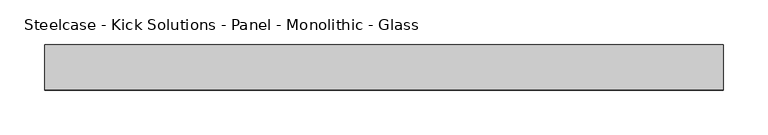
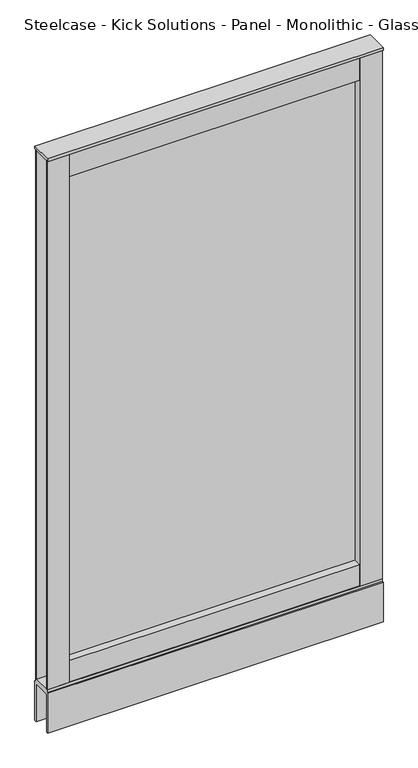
"""IFC4 building model written with IfcOpenShell, lengths in millimetres: furniture geometry, Steelcase - Kick Solutions - Panel - Monolithic - Glass : 54H x 30W."""

from ifc_helpers import new_model, si_unit, frame, origin, place, context, project, spatial, polyline, outline, extrude, source, transform, mapped, element, save


def steelcase_kick_solutions_panel_monolithic_glass_fa8cbcec(model_context):
    return source(origin(), model_context, "Body", "SweptSolid", [
        extrude(outline(polyline([(711.2006661, -5.08), (711.2006661, -45.7200015), (50.8006646, -45.7200015), (50.8006646, -5.08), (711.2006661, -5.08)])), frame((0.0, 0.0, 101.7169049), z_axis=(0.0, 0.0, 1.0), x_axis=(1.0, 0.0, 0.0)), (0.0, 0.0, 1.0), 50.6830951),
        extrude(outline(polyline([(711.2006661, -5.08), (711.2006661, -45.7200015), (50.8006646, -45.7200015), (50.8006646, -5.08), (711.2006661, -5.08)])), frame((0.0, 0.0, 1314.45), z_axis=(0.0, 0.0, 1.0), x_axis=(1.0, 0.0, 0.0)), (0.0, 0.0, 1.0), 57.15),
        extrude(outline(polyline([(50.8006646, -3.1743148), (50.8006646, -47.6243142), (0.0, -47.6243142), (0.0, -45.7200015), (47.7526646, -45.7200015), (47.7526646, -5.08), (0.0, -5.08), (0.0, -3.1743148), (50.8006646, -3.1743148)])), frame((0.0, 0.0, 101.7169049), z_axis=(0.0, 0.0, 1.0), x_axis=(1.0, 0.0, 0.0)), (0.0, 0.0, 1.0), 1269.8830951),
        extrude(outline(polyline([(711.2006661, -3.1743148), (762.0, -3.1743148), (762.0, -5.08), (714.2486661, -5.08), (714.2486661, -45.7200015), (762.0, -45.7200015), (762.0, -47.6243142), (711.2006661, -47.6243142), (711.2006661, -3.1743148)])), frame((0.0, 0.0, 101.7169049), z_axis=(0.0, 0.0, 1.0), x_axis=(1.0, 0.0, 0.0)), (0.0, 0.0, 1.0), 1269.8830951),
        extrude(outline(polyline([(711.2006661, -28.422537), (50.8006646, -28.422537), (50.8006646, -25.4), (711.2006661, -25.4), (711.2006661, -28.422537)])), frame((0.0, 0.0, 152.4), z_axis=(0.0, 0.0, 1.0), x_axis=(1.0, 0.0, 0.0)), (0.0, 0.0, 1.0), 1162.05),
        extrude(outline(polyline([(762.0, 0.0), (762.0, -50.8000015), (0.0, -50.8000015), (0.0, 0.0), (762.0, 0.0)])), frame((0.0, 0.0, 1371.6), z_axis=(0.0, 0.0, 1.0), x_axis=(1.0, 0.0, 0.0)), (0.0, 0.0, 1.0), 6.35),
        extrude(outline(polyline([(0.0, 0.0), (-5.08, 0.0), (-5.08, 90.2869018), (-45.7200015, 90.2869018), (-45.7200015, 0.0), (-50.8000015, 0.0), (-50.8000015, 95.3669018), (-47.6243142, 95.3669018), (-47.6243142, 101.7169049), (-3.1743148, 101.7169049), (-3.1743148, 95.3669018), (0.0, 95.3669018), (0.0, 0.0)])), frame((0.0, 0.0, 0.0), z_axis=(1.0, 0.0, 0.0), x_axis=(0.0, 1.0, 0.0)), (0.0, 0.0, 1.0), 762.0),
    ])


if __name__ == "__main__":
    model = new_model("IFC4")
    model_context = context("Model", 3, world=origin())
    ifc_project = project(units=[si_unit("LENGTHUNIT", "METRE", prefix="MILLI")], contexts=[model_context])
    site = spatial("IfcSite", under=ifc_project)
    building = spatial("IfcBuilding", under=site)
    placement = place(None, origin())
    steelcase_kick_solutions_panel_monolithic_glass_shape = steelcase_kick_solutions_panel_monolithic_glass_fa8cbcec(model_context)
    element("IfcFurniture", 1, ObjectType="Steelcase - Kick Solutions - Panel - Monolithic - Glass : 54H x 30W", at=placement, inside=building, context=model_context, shape_type="MappedRepresentation", body=[
        mapped(steelcase_kick_solutions_panel_monolithic_glass_shape, transform((0.0, 0.0, 0.0), x_axis=(1.0, 0.0, 0.0), y_axis=(0.0, 1.0, 0.0), z_axis=(0.0, 0.0, 1.0))),
    ])
    save(model, "model.ifc")
